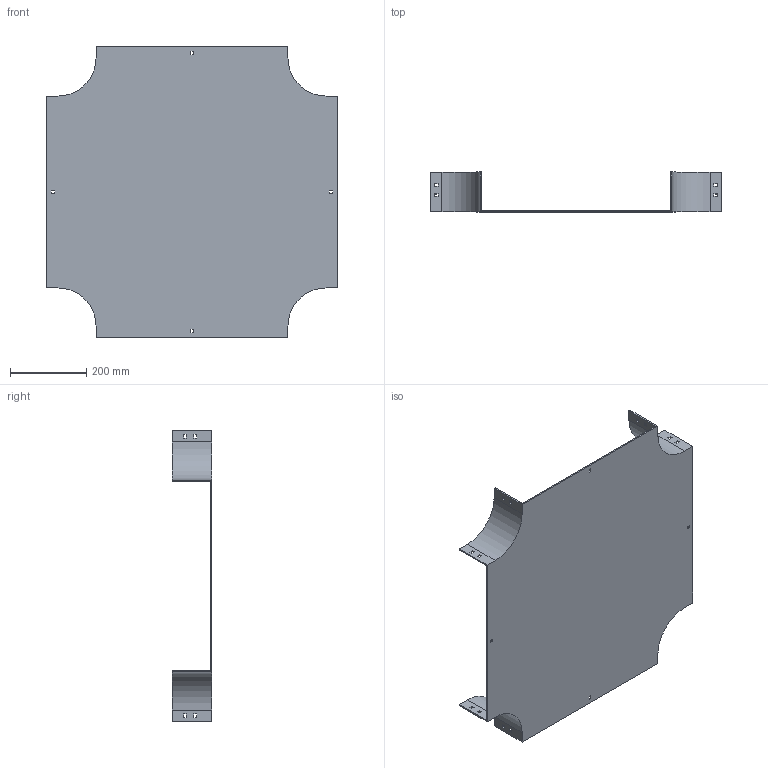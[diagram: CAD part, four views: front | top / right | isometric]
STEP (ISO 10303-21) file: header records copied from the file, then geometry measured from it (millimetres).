
FILE_DESCRIPTION (( 'STEP AP214' ), '1' );
FILE_NAME ('17F1D500.step', '2025-02-21T13:05:21', ( '' ), ( '' ), 'SwSTEP 2.0', 'SolidWorks 2023', '' );
FILE_SCHEMA (( 'AUTOMOTIVE_DESIGN' ));
Length unit declared in the file: millimetre
Products named in the file (1): 17F1D500
Bounding box: 764 x 104 x 764 mm (x, y, z)
Volume: 2140940 mm3; surface area: 1238641.4 mm2
Topology: 1 solids, 1 shells, 114 faces, 336 edges, 224 vertices
Faces by surface type: plane 106, cylinder 8
Entity records: 3839 total; most frequent: CARTESIAN_POINT 675, ORIENTED_EDGE 672, DIRECTION 582, EDGE_CURVE 336, LINE 320, VECTOR 320, VERTEX_POINT 224, EDGE_LOOP 154
